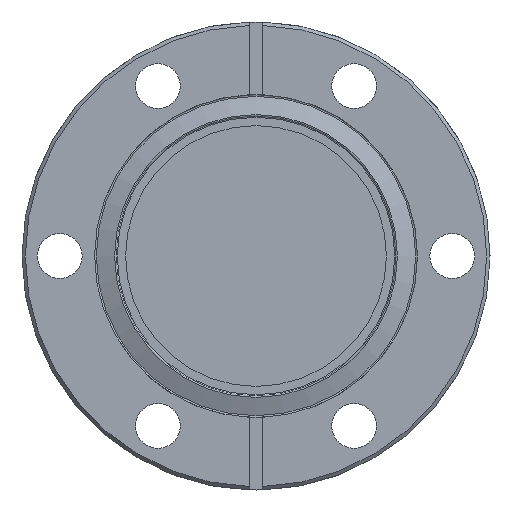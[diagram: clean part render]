
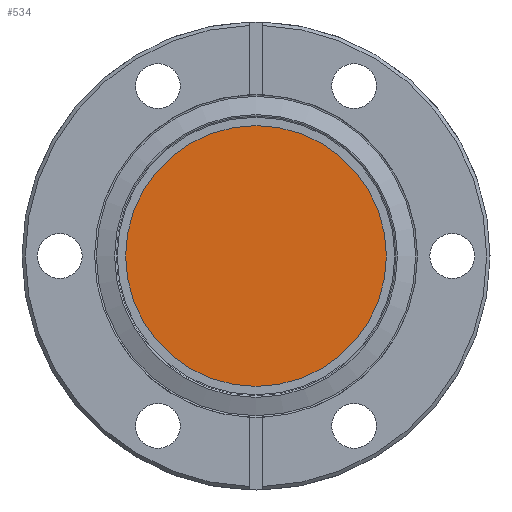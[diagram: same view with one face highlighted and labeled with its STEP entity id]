
A CAD part, front view. The second image highlights one B-rep face of the part: STEP entity #534.
In plain terms, the highlighted planar face has unit normal (0, -1, 0).
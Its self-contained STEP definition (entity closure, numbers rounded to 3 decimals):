
#43=PLANE('',#583);
#57=FACE_OUTER_BOUND('',#87,.T.);
#87=EDGE_LOOP('',(#375));
#197=CIRCLE('',#582,19.5);
#241=VERTEX_POINT('',#850);
#294=EDGE_CURVE('',#241,#241,#197,.T.);
#375=ORIENTED_EDGE('',*,*,#294,.F.);
#534=ADVANCED_FACE('',(#57),#43,.T.);
#582=AXIS2_PLACEMENT_3D('',#852,#669,#670);
#583=AXIS2_PLACEMENT_3D('',#853,#671,#672);
#669=DIRECTION('center_axis',(0.,1.,0.));
#670=DIRECTION('ref_axis',(1.,0.,0.));
#671=DIRECTION('center_axis',(0.,-1.,0.));
#672=DIRECTION('ref_axis',(1.,0.,0.));
#850=CARTESIAN_POINT('',(-19.5,2.5,0.));
#852=CARTESIAN_POINT('Origin',(0.,2.5,0.));
#853=CARTESIAN_POINT('Origin',(0.,2.5,0.));
